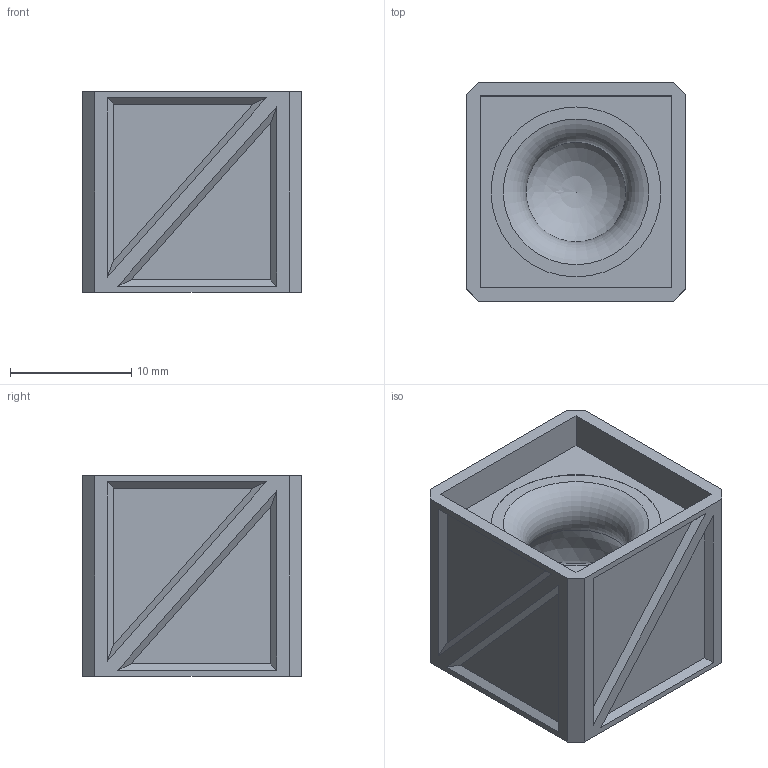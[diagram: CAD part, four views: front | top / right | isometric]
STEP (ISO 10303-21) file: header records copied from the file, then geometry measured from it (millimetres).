
FILE_DESCRIPTION(/* description */ (''),/* implementation_level */ '2;1');
FILE_NAME(/* name */ 'Base.step',/* time_stamp */ '2025-11-28T13:03:17+11:00',/* author */ (''),/* organization */ (''),/* preprocessor_version */ 'ST-DEVELOPER v20.1',/* originating_system */ 'Autodesk Translation Framework v14.4.0.0',/* authorisation */ '');
FILE_SCHEMA (('AUTOMOTIVE_DESIGN { 1 0 10303 214 3 1 1 }'));
Length unit declared in the file: millimetre
Products named in the file (1): Base
Bounding box: 18 x 18 x 16.5 mm (x, y, z)
Volume: 3366.1 mm3; surface area: 2382.6 mm2
Topology: 1 solids, 1 shells, 51 faces, 116 edges, 77 vertices
Faces by surface type: plane 48, cylinder 1, sphere 1, torus 1
Full cylindrical faces by diameter (mm): 14 x1
Entity records: 1436 total; most frequent: CARTESIAN_POINT 244, ORIENTED_EDGE 230, DIRECTION 225, EDGE_CURVE 115, LINE 109, VECTOR 109, VERTEX_POINT 77, EDGE_LOOP 62
